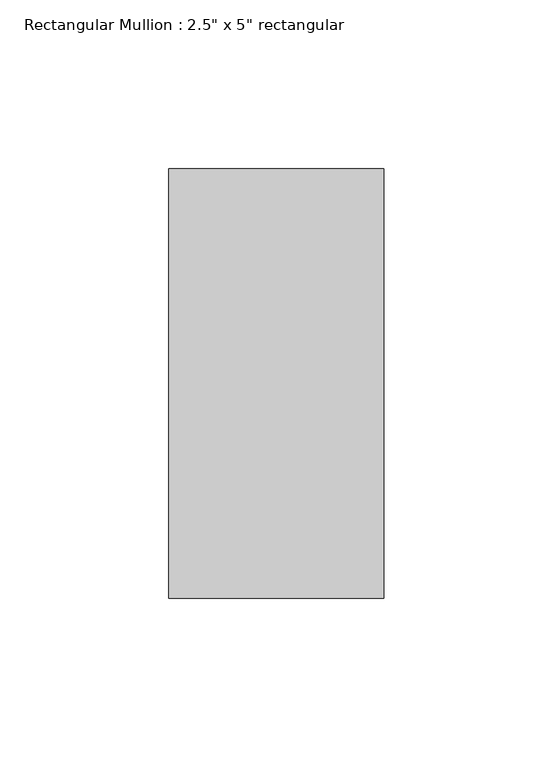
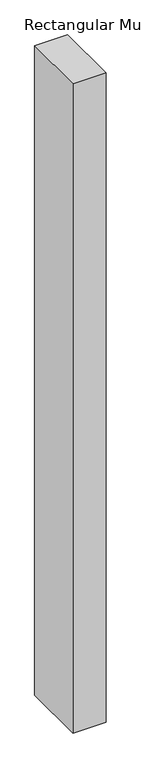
"""IFC4 building model written with IfcOpenShell, lengths in millimetres: member geometry."""

from ifc_helpers import new_model, si_unit, frame, origin, place, context, project, spatial, polyline, outline, extrude, source, transform, mapped, element, save


def member_69199aba(model_context):
    return source(origin(), model_context, "Body", "SweptSolid", [
        extrude(outline(polyline([(0.0, 50.8), (0.0, -76.2), (-63.5, -76.2), (-63.5, 50.8), (0.0, 50.8)])), frame((0.0, 0.0, -1318.41875), z_axis=(0.0, 0.0, 1.0), x_axis=(1.0, 0.0, 0.0)), (0.0, 0.0, 1.0), 1318.41875),
    ])


if __name__ == "__main__":
    model = new_model("IFC4")
    model_context = context("Model", 3, world=origin())
    ifc_project = project(units=[si_unit("LENGTHUNIT", "METRE", prefix="MILLI")], contexts=[model_context])
    site = spatial("IfcSite", under=ifc_project)
    building = spatial("IfcBuilding", under=site)
    placement = place(None, origin())
    member_shape = member_69199aba(model_context)
    element("IfcMember", 1, ObjectType="Rectangular Mullion : 2.5\" x 5\" rectangular", at=placement, inside=building, context=model_context, shape_type="MappedRepresentation", body=[
        mapped(member_shape, transform((0.0, 0.0, 0.0), x_axis=(1.0, 0.0, 0.0), y_axis=(0.0, 1.0, 0.0), z_axis=(0.0, 0.0, 1.0))),
    ])
    save(model, "model.ifc")
